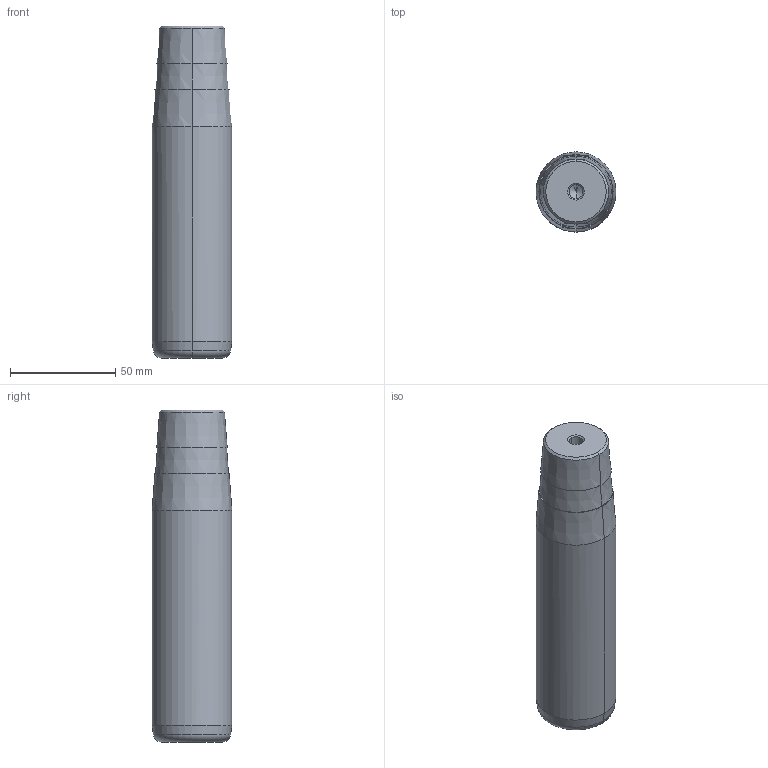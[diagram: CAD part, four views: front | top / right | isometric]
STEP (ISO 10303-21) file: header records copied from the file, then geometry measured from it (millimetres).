
FILE_DESCRIPTION(('CATIA V5 STEP Exchange'),'2;1');
FILE_NAME('C:\Users\Utente\Desktop\IO LAVORO\3D X SITO CF\X SITO\722\722-38x125x158.stp','2021-01-08T16:06:35+00:00',('none'),('none'),'CATIA Version 5 Release 20 GA (IN-10)','CATIA V5 STEP AP203','none');
FILE_SCHEMA(('CONFIG_CONTROL_DESIGN'));
Length unit declared in the file: millimetre
Products named in the file (1): 722-38x125x158
Bounding box: 38 x 38 x 158 mm (x, y, z)
Volume: 166442 mm3; surface area: 20989.6 mm2
Topology: 1 solids, 1 shells, 32 faces, 98 edges, 66 vertices
Faces by surface type: cone 22, cylinder 6, plane 2, torus 2
Entity records: 1166 total; most frequent: CARTESIAN_POINT 279, ORIENTED_EDGE 188, DIRECTION 148, EDGE_CURVE 94, AXIS2_PLACEMENT_3D 89, VERTEX_POINT 66, CIRCLE 56, EDGE_LOOP 34
